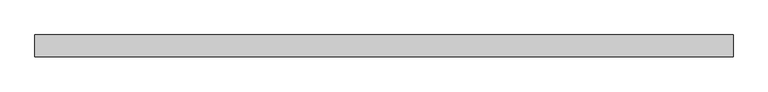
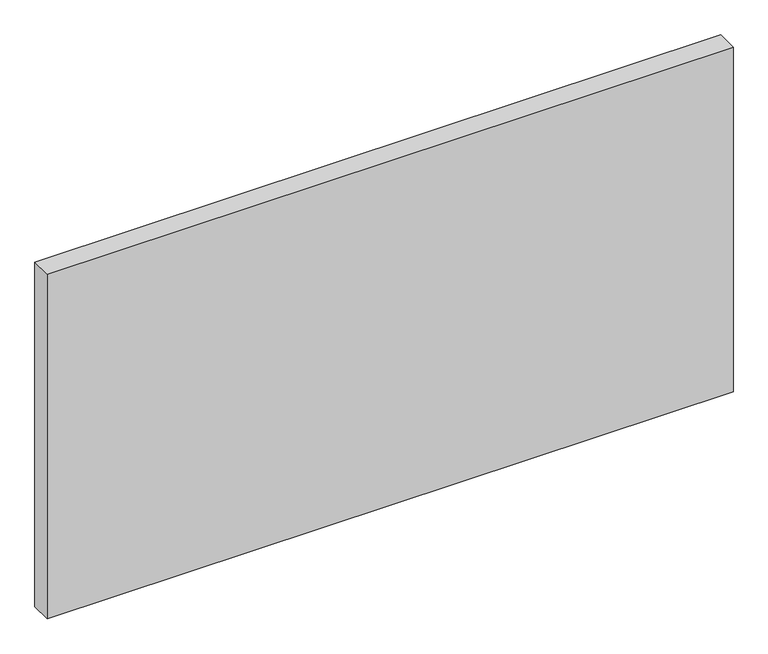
"""IFC4 building model written with IfcOpenShell, lengths in millimetres: proxy geometry, FOUNDATION^PO2_WIRE WALL-WORKSURFACE."""

from ifc_helpers import new_model, si_unit, frame, origin, place, context, project, spatial, polyline, outline, extrude, source, transform, mapped, element, save


def generic_models_a1b3daed(model_context):
    return source(origin(), model_context, "Body", "SweptSolid", [
        extrude(outline(polyline([(1219.2, 0.0), (0.0, 0.0), (0.0, 38.1), (1219.2, 38.1), (1219.2, 0.0)])), frame((0.0, 0.0, -647.7), z_axis=(0.0, 0.0, 1.0), x_axis=(1.0, 0.0, 0.0)), (0.0, 0.0, 1.0), 647.7),
    ])


if __name__ == "__main__":
    model = new_model("IFC4")
    model_context = context("Model", 3, world=origin())
    ifc_project = project(units=[si_unit("LENGTHUNIT", "METRE", prefix="MILLI")], contexts=[model_context])
    site = spatial("IfcSite", under=ifc_project)
    building = spatial("IfcBuilding", under=site)
    placement = place(None, origin())
    generic_models_shape = generic_models_a1b3daed(model_context)
    element("IfcBuildingElementProxy", 1, Name="FOUNDATION^PO2_WIRE WALL-WORKSURFACE", ObjectType="FOUNDATION^PO2_WIRE WALL-WORKSURFACE", at=placement, inside=building, context=model_context, shape_type="MappedRepresentation", body=[
        mapped(generic_models_shape, transform((0.0, 0.0, 0.0), x_axis=(1.0, 0.0, 0.0), y_axis=(0.0, 1.0, 0.0), z_axis=(0.0, 0.0, 1.0))),
    ])
    save(model, "model.ifc")
